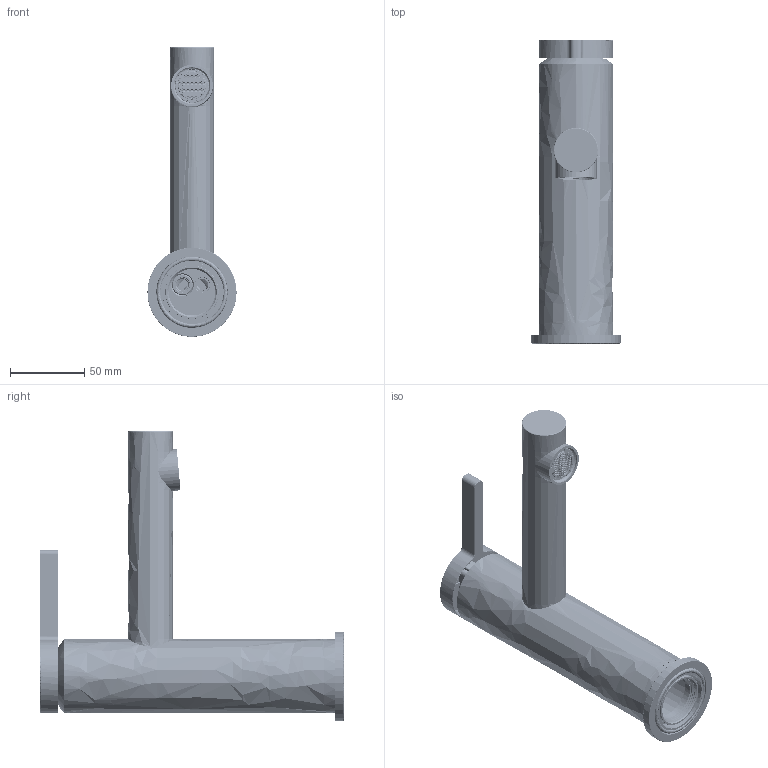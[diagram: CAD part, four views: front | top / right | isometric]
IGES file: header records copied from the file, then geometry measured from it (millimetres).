
Start section: SolidWorks IGES file using analytic representation for surfaces
Global section: file name: C:\Users\ccai\Desktop\CeliaC\Projects\0920-ADHOC-02495&02496 Neutral File#3\sku_co28series_igs\CO28SERIES.IGS; native system: SolidWorks 2023; preprocessor: SolidWorks 2023; author: ccai; date: 240918.164714; units: millimetre
Bounding box: 59.99 x 205.09 x 195 mm (x, y, z)
Surface area: 161760.3 mm2 (no closed solid volume)
Topology: 0 solids, 0 shells, 8169 faces, 67095 edges, 67194 vertices
Faces by surface type: bspline 5907, revolution 2262
